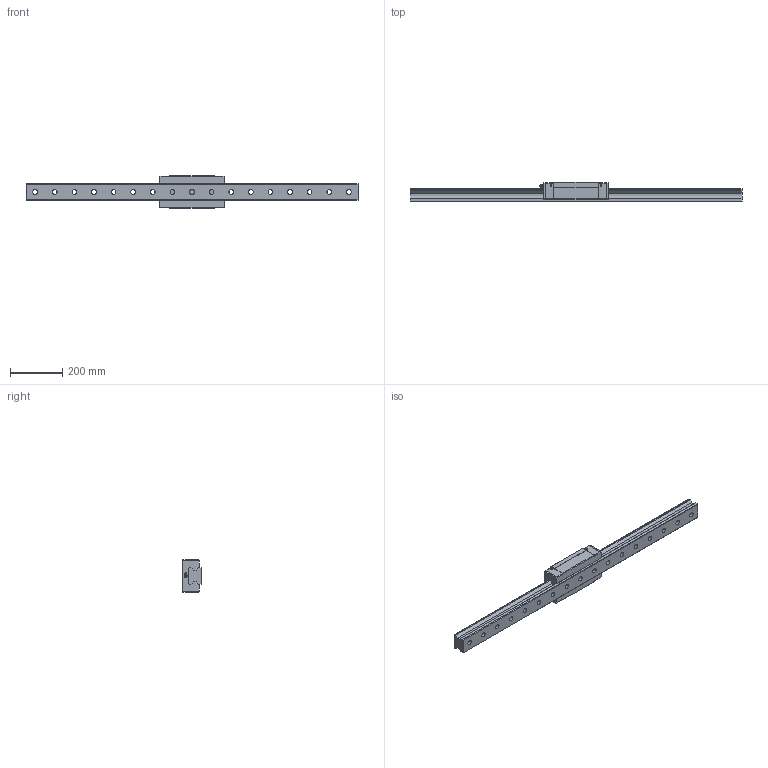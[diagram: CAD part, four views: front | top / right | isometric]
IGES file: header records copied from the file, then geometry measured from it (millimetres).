
Start section: Data from Parasolid IGES Translator 26.0.171, Copyright(c) 2006 Siemens PLM Software. All Rights Reserved.
Global section: file name: SRN65R1SS-1270L_G35_0_B-PT18_512-55_0_0_0_1.igs; native system: By Siemens PLM Incorporated; preprocessor: XPlus GENERIC/IGES 26.0.171; author: Noname; organization: Noname; date: 20240523.105641; units: millimetre
Bounding box: 1270 x 75 x 126 mm (x, y, z)
Surface area: 486220.7 mm2 (no closed solid volume)
Topology: 0 solids, 0 shells, 213 faces, 1047 edges, 925 vertices
Faces by surface type: extrusion 132, revolution 81
